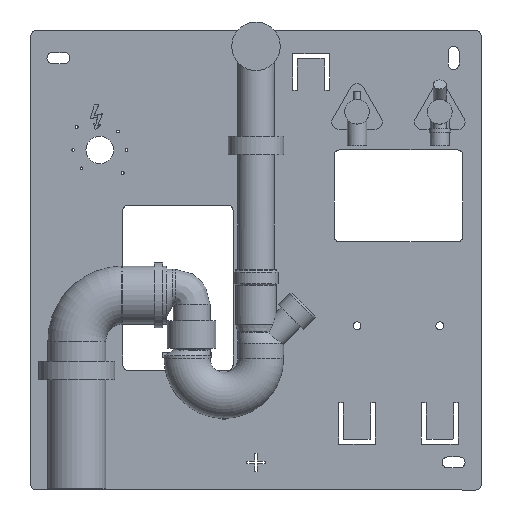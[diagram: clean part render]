
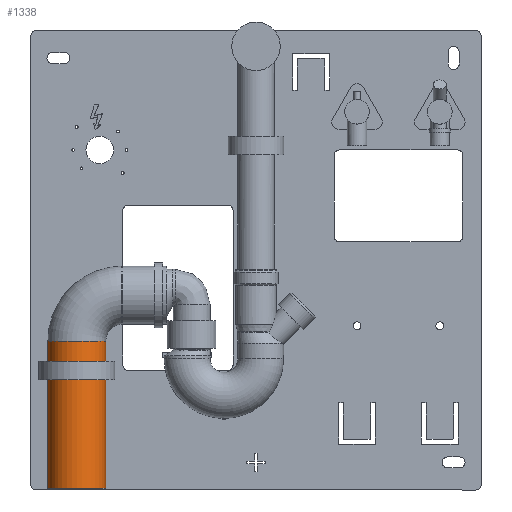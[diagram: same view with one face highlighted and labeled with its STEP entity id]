
A CAD part, front view. The second image highlights one B-rep face of the part: STEP entity #1338.
In plain terms, the highlighted cylindrical face has radius 31.5 mm (diameter 63 mm), a full revolution.
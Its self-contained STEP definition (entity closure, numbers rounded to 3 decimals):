
#1338=ADVANCED_FACE('',(#2785,#2786),#2787,.T.);
#2785=FACE_BOUND('',#4769,.T.);
#2786=FACE_BOUND('',#4770,.T.);
#2787=CYLINDRICAL_SURFACE('',#4771,31.5);
#4769=EDGE_LOOP('',(#5937));
#4770=EDGE_LOOP('',(#5938));
#4771=AXIS2_PLACEMENT_3D('',#5939,#5940,#5941);
#5937=ORIENTED_EDGE('',*,*,#8728,.F.);
#5938=ORIENTED_EDGE('',*,*,#8729,.T.);
#5939=CARTESIAN_POINT('',(-136.765,-50.0,190.0));
#5940=DIRECTION('',(0.,0.,1.0));
#5941=DIRECTION('',(0.,1.0,0.));
#8728=EDGE_CURVE('',#11202,#11202,#11203,.T.);
#8729=EDGE_CURVE('',#11204,#11204,#11205,.T.);
#11202=VERTEX_POINT('',#12826);
#11203=CIRCLE('',#12827,31.5);
#11204=VERTEX_POINT('',#12828);
#11205=CIRCLE('',#12829,31.5);
#12826=CARTESIAN_POINT('',(-105.265,-50.0,350.));
#12827=AXIS2_PLACEMENT_3D('',#14613,#14614,#14615);
#12828=CARTESIAN_POINT('',(-136.765,-18.5,190.0));
#12829=AXIS2_PLACEMENT_3D('',#14616,#14617,#14618);
#14613=CARTESIAN_POINT('',(-136.765,-50.0,350.));
#14614=DIRECTION('',(0.0,0.0,1.0));
#14615=DIRECTION('',(-1.0,0.0,0.0));
#14616=CARTESIAN_POINT('',(-136.765,-50.0,190.0));
#14617=DIRECTION('',(0.,0.,1.0));
#14618=DIRECTION('',(0.,1.0,0.));
